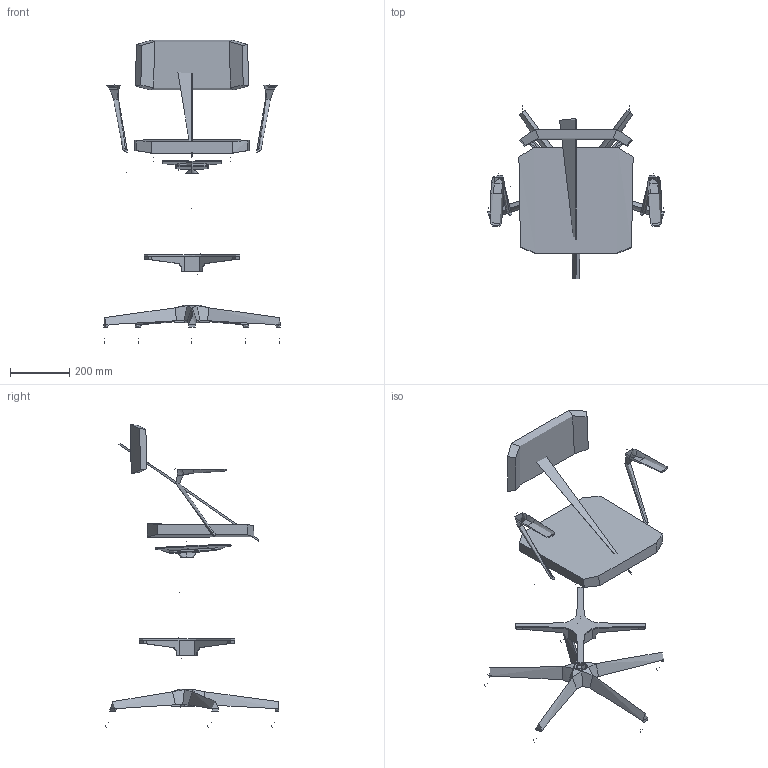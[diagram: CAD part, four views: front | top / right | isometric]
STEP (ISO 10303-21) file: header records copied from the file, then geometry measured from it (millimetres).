
FILE_DESCRIPTION(/* description */ (''),/* implementation_level */ '2;1');
FILE_NAME(/* name */ 'ZOE 223-BL,BR-ZOE',/* time_stamp */ '2023-05-17T16:49:59+02:00',/* author */ (''),/* organization */ (''),/* preprocessor_version */ 'ST-DEVELOPER v16.5',/* originating_system */ 'Rhino 7.29',/* authorisation */ '');
FILE_SCHEMA (('CONFIG_CONTROL_DESIGN'));
Length unit declared in the file: millimetre
Products named in the file (1): Document
Bounding box: 597.38 x 585.8 x 1025.24 mm (x, y, z)
Volume: 15651079.9 mm3; surface area: 1779620.3 mm2
Topology: 16 solids, 29 shells, 363 faces, 862 edges, 529 vertices
Faces by surface type: bspline 169, plane 127, cylinder 67
Full cylindrical faces by diameter (mm): 8 x1, 11 x5, 22 x2, 28 x1, 46 x1, 50 x6, 80 x1
Entity records: 28864 total; most frequent: CARTESIAN_POINT 23333, ORIENTED_EDGE 1621, EDGE_CURVE 864, B_SPLINE_CURVE_WITH_KNOTS 547, VERTEX_POINT 532, EDGE_LOOP 370, ADVANCED_FACE 363, FACE_OUTER_BOUND 363
